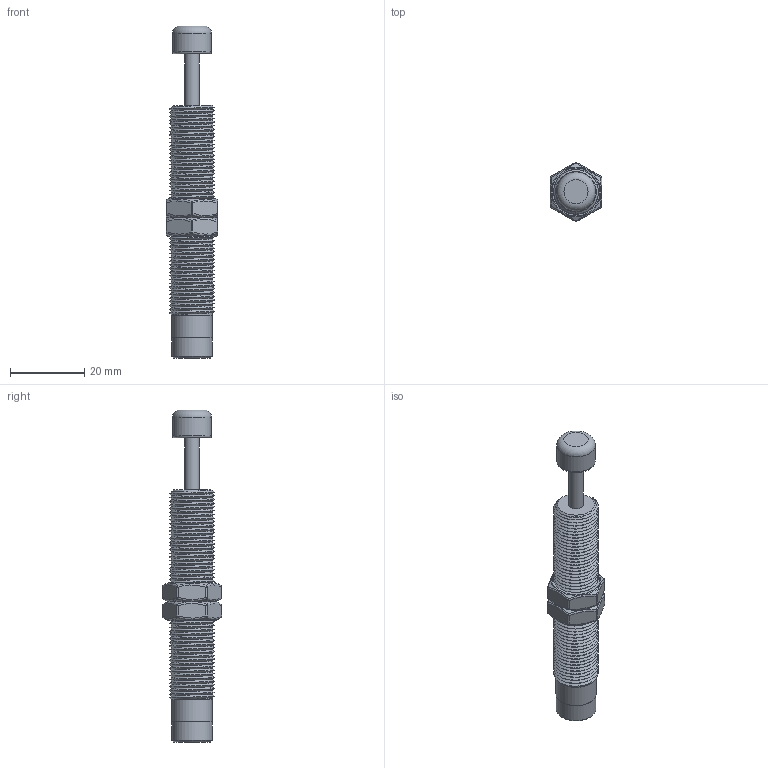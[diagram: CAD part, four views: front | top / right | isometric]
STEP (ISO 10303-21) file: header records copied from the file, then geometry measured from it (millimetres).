
FILE_DESCRIPTION(('STEP AP203'),'1');
FILE_NAME('C:/Documents and Settings/User/官帕 拳搁/KMA12-14B.stp',' ',(' '),(' '),'XStep 1.0',' ',' ');
FILE_SCHEMA(('CONFIG_CONTROL_DESIGN'));
Length unit declared in the file: metre
Products named in the file (1): Assembly154
Bounding box: 14 x 16.01 x 89.5 mm (x, y, z)
Volume: 8840.2 mm3; surface area: 9492.6 mm2
Topology: 8 solids, 8 shells, 112 faces, 211 edges, 116 vertices
Faces by surface type: plane 29, bspline 27, sphere 24, cylinder 20, torus 6, cone 6
Full cylindrical faces by diameter (mm): 4 x1, 10 x1, 10.5 x1, 10.8 x2, 10.918 x1, 11 x2
Entity records: 12044 total; most frequent: CARTESIAN_POINT 10024, DIRECTION 415, ORIENTED_EDGE 362, AXIS2_PLACEMENT_3D 194, EDGE_CURVE 181, EDGE_LOOP 137, FACE_OUTER_BOUND 126, ADVANCED_FACE 112
